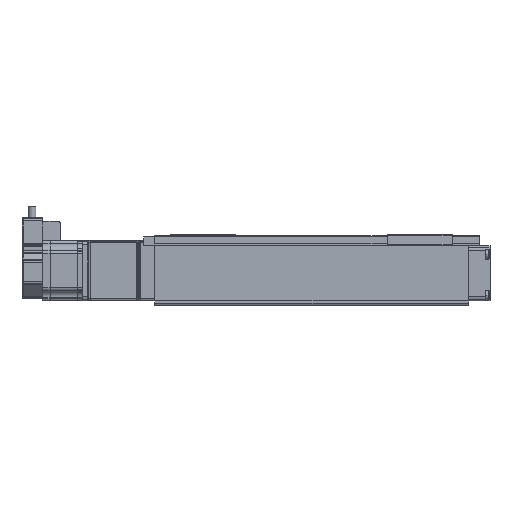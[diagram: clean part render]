
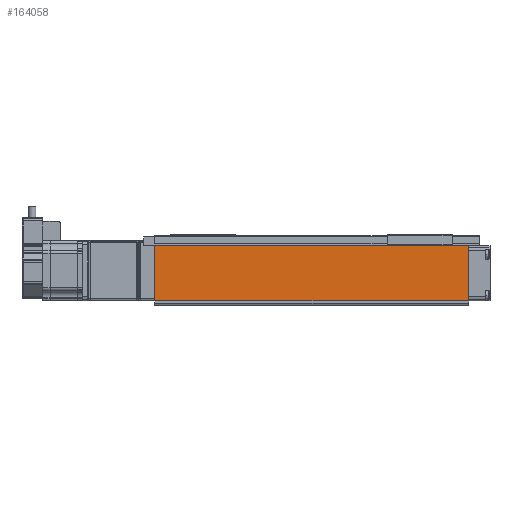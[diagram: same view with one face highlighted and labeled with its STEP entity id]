
A CAD part, front view. The second image highlights one B-rep face of the part: STEP entity #164058.
In plain terms, the highlighted planar face has unit normal (0, -1, 0).
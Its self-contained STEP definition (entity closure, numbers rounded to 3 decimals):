
#164058 = ADVANCED_FACE('',(#164059),#164073,.T.);
#164059 = FACE_BOUND('',#164060,.T.);
#164060 = EDGE_LOOP('',(#164061,#164096,#164124,#164152));
#164061 = ORIENTED_EDGE('',*,*,#164062,.T.);
#164062 = EDGE_CURVE('',#164063,#164065,#164067,.T.);
#164063 = VERTEX_POINT('',#164064);
#164064 = CARTESIAN_POINT('',(776.173,-709.318,181.5));
#164065 = VERTEX_POINT('',#164066);
#164066 = CARTESIAN_POINT('',(776.173,-709.318,232.5));
#164067 = SURFACE_CURVE('',#164068,(#164072,#164084),.PCURVE_S1.);
#164068 = LINE('',#164069,#164070);
#164069 = CARTESIAN_POINT('',(776.173,-709.318,207.));
#164070 = VECTOR('',#164071,1.);
#164071 = DIRECTION('',(0.,0.,1.));
#164072 = PCURVE('',#164073,#164078);
#164073 = PLANE('',#164074);
#164074 = AXIS2_PLACEMENT_3D('',#164075,#164076,#164077);
#164075 = CARTESIAN_POINT('',(486.173,-709.318,181.5));
#164076 = DIRECTION('',(0.,-1.,0.));
#164077 = DIRECTION('',(1.,0.,0.));
#164078 = DEFINITIONAL_REPRESENTATION('',(#164079),#164083);
#164079 = LINE('',#164080,#164081);
#164080 = CARTESIAN_POINT('',(290.,25.5));
#164081 = VECTOR('',#164082,1.);
#164082 = DIRECTION('',(0.,1.));
#164083 = ( GEOMETRIC_REPRESENTATION_CONTEXT(2) 
PARAMETRIC_REPRESENTATION_CONTEXT() REPRESENTATION_CONTEXT('2D SPACE',''
  ) );
#164084 = PCURVE('',#164085,#164090);
#164085 = PLANE('',#164086);
#164086 = AXIS2_PLACEMENT_3D('',#164087,#164088,#164089);
#164087 = CARTESIAN_POINT('',(776.173,-629.318,181.5));
#164088 = DIRECTION('',(-1.,0.,0.));
#164089 = DIRECTION('',(0.,-1.,0.));
#164090 = DEFINITIONAL_REPRESENTATION('',(#164091),#164095);
#164091 = LINE('',#164092,#164093);
#164092 = CARTESIAN_POINT('',(80.,25.5));
#164093 = VECTOR('',#164094,1.);
#164094 = DIRECTION('',(0.,1.));
#164095 = ( GEOMETRIC_REPRESENTATION_CONTEXT(2) 
PARAMETRIC_REPRESENTATION_CONTEXT() REPRESENTATION_CONTEXT('2D SPACE',''
  ) );
#164096 = ORIENTED_EDGE('',*,*,#164097,.T.);
#164097 = EDGE_CURVE('',#164065,#164098,#164100,.T.);
#164098 = VERTEX_POINT('',#164099);
#164099 = CARTESIAN_POINT('',(486.173,-709.318,232.5));
#164100 = SURFACE_CURVE('',#164101,(#164105,#164112),.PCURVE_S1.);
#164101 = LINE('',#164102,#164103);
#164102 = CARTESIAN_POINT('',(631.173,-709.318,232.5));
#164103 = VECTOR('',#164104,1.);
#164104 = DIRECTION('',(-1.,0.,0.));
#164105 = PCURVE('',#164073,#164106);
#164106 = DEFINITIONAL_REPRESENTATION('',(#164107),#164111);
#164107 = LINE('',#164108,#164109);
#164108 = CARTESIAN_POINT('',(145.,51.));
#164109 = VECTOR('',#164110,1.);
#164110 = DIRECTION('',(-1.,0.));
#164111 = ( GEOMETRIC_REPRESENTATION_CONTEXT(2) 
PARAMETRIC_REPRESENTATION_CONTEXT() REPRESENTATION_CONTEXT('2D SPACE',''
  ) );
#164112 = PCURVE('',#164113,#164118);
#164113 = PLANE('',#164114);
#164114 = AXIS2_PLACEMENT_3D('',#164115,#164116,#164117);
#164115 = CARTESIAN_POINT('',(486.173,-709.318,232.5));
#164116 = DIRECTION('',(0.,0.,-1.));
#164117 = DIRECTION('',(0.,1.,0.));
#164118 = DEFINITIONAL_REPRESENTATION('',(#164119),#164123);
#164119 = LINE('',#164120,#164121);
#164120 = CARTESIAN_POINT('',(0.,145.));
#164121 = VECTOR('',#164122,1.);
#164122 = DIRECTION('',(0.,-1.));
#164123 = ( GEOMETRIC_REPRESENTATION_CONTEXT(2) 
PARAMETRIC_REPRESENTATION_CONTEXT() REPRESENTATION_CONTEXT('2D SPACE',''
  ) );
#164124 = ORIENTED_EDGE('',*,*,#164125,.T.);
#164125 = EDGE_CURVE('',#164098,#164126,#164128,.T.);
#164126 = VERTEX_POINT('',#164127);
#164127 = CARTESIAN_POINT('',(486.173,-709.318,181.5));
#164128 = SURFACE_CURVE('',#164129,(#164133,#164140),.PCURVE_S1.);
#164129 = LINE('',#164130,#164131);
#164130 = CARTESIAN_POINT('',(486.173,-709.318,207.));
#164131 = VECTOR('',#164132,1.);
#164132 = DIRECTION('',(0.,0.,-1.));
#164133 = PCURVE('',#164073,#164134);
#164134 = DEFINITIONAL_REPRESENTATION('',(#164135),#164139);
#164135 = LINE('',#164136,#164137);
#164136 = CARTESIAN_POINT('',(0.,25.5));
#164137 = VECTOR('',#164138,1.);
#164138 = DIRECTION('',(0.,-1.));
#164139 = ( GEOMETRIC_REPRESENTATION_CONTEXT(2) 
PARAMETRIC_REPRESENTATION_CONTEXT() REPRESENTATION_CONTEXT('2D SPACE',''
  ) );
#164140 = PCURVE('',#164141,#164146);
#164141 = PLANE('',#164142);
#164142 = AXIS2_PLACEMENT_3D('',#164143,#164144,#164145);
#164143 = CARTESIAN_POINT('',(486.173,-709.318,181.5));
#164144 = DIRECTION('',(1.,0.,0.));
#164145 = DIRECTION('',(0.,1.,0.));
#164146 = DEFINITIONAL_REPRESENTATION('',(#164147),#164151);
#164147 = LINE('',#164148,#164149);
#164148 = CARTESIAN_POINT('',(0.,25.5));
#164149 = VECTOR('',#164150,1.);
#164150 = DIRECTION('',(0.,-1.));
#164151 = ( GEOMETRIC_REPRESENTATION_CONTEXT(2) 
PARAMETRIC_REPRESENTATION_CONTEXT() REPRESENTATION_CONTEXT('2D SPACE',''
  ) );
#164152 = ORIENTED_EDGE('',*,*,#164153,.T.);
#164153 = EDGE_CURVE('',#164126,#164063,#164154,.T.);
#164154 = SURFACE_CURVE('',#164155,(#164159,#164166),.PCURVE_S1.);
#164155 = LINE('',#164156,#164157);
#164156 = CARTESIAN_POINT('',(631.173,-709.318,181.5));
#164157 = VECTOR('',#164158,1.);
#164158 = DIRECTION('',(1.,0.,0.));
#164159 = PCURVE('',#164073,#164160);
#164160 = DEFINITIONAL_REPRESENTATION('',(#164161),#164165);
#164161 = LINE('',#164162,#164163);
#164162 = CARTESIAN_POINT('',(145.,0.));
#164163 = VECTOR('',#164164,1.);
#164164 = DIRECTION('',(1.,0.));
#164165 = ( GEOMETRIC_REPRESENTATION_CONTEXT(2) 
PARAMETRIC_REPRESENTATION_CONTEXT() REPRESENTATION_CONTEXT('2D SPACE',''
  ) );
#164166 = PCURVE('',#164167,#164172);
#164167 = PLANE('',#164168);
#164168 = AXIS2_PLACEMENT_3D('',#164169,#164170,#164171);
#164169 = CARTESIAN_POINT('',(486.173,-629.318,181.5));
#164170 = DIRECTION('',(0.,0.,1.));
#164171 = DIRECTION('',(0.,-1.,0.));
#164172 = DEFINITIONAL_REPRESENTATION('',(#164173),#164177);
#164173 = LINE('',#164174,#164175);
#164174 = CARTESIAN_POINT('',(80.,145.));
#164175 = VECTOR('',#164176,1.);
#164176 = DIRECTION('',(0.,1.));
#164177 = ( GEOMETRIC_REPRESENTATION_CONTEXT(2) 
PARAMETRIC_REPRESENTATION_CONTEXT() REPRESENTATION_CONTEXT('2D SPACE',''
  ) );
